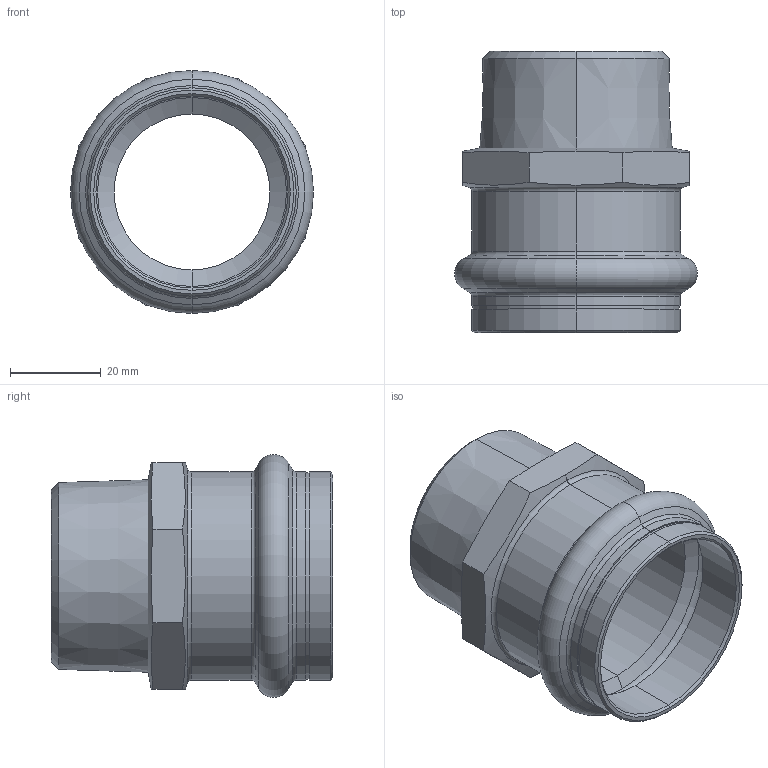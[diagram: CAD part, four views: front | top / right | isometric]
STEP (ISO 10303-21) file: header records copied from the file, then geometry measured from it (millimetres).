
FILE_DESCRIPTION (( 'STEP AP203' ), '1' );
FILE_NAME ('SP4243G Ø42 1 1-4.STEP', '2017-04-26T07:54:23', ( '' ), ( '' ), 'SwSTEP 2.0', 'SolidWorks 2016', '' );
FILE_SCHEMA (( 'CONFIG_CONTROL_DESIGN' ));
Length unit declared in the file: millimetre
Products named in the file (1): SP4243G Ø42 1 1-4
Bounding box: 53.6 x 62.1 x 53.6 mm (x, y, z)
Volume: 25682.3 mm3; surface area: 19550.2 mm2
Topology: 1 solids, 1 shells, 63 faces, 136 edges, 78 vertices
Faces by surface type: cone 24, cylinder 16, plane 13, torus 10
Entity records: 1851 total; most frequent: CARTESIAN_POINT 394, DIRECTION 312, ORIENTED_EDGE 272, EDGE_CURVE 136, AXIS2_PLACEMENT_3D 132, VERTEX_POINT 78, EDGE_LOOP 68, CIRCLE 68
